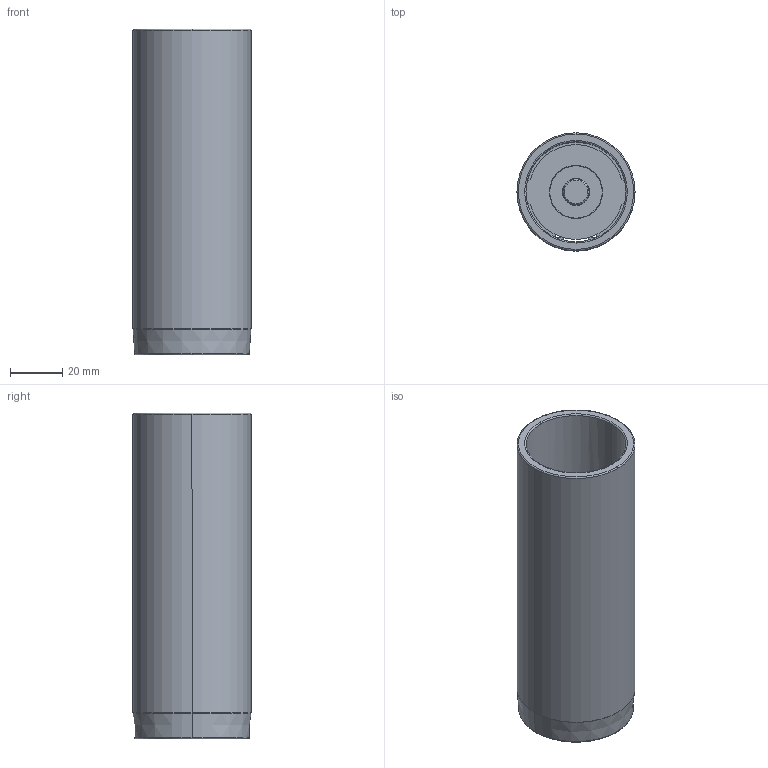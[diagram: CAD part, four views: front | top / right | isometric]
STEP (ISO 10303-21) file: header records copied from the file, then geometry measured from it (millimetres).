
FILE_DESCRIPTION((''),'2;1');
FILE_NAME('C12_038_125.stp','2009-01-28T11:30:20',(''),(''),'Mechanical Desktop 2009','Mechanical Desktop 2009',', , ');
FILE_SCHEMA(('CONFIG_CONTROL_DESIGN'));
Length unit declared in the file: millimetre
Products named in the file (2): Product; blmdl1
Assembly tree (1 placements, depth 2):
  Product
    blmdl1
Bounding box: 45.25 x 45.25 x 125 mm (x, y, z)
Volume: 60933 mm3; surface area: 39794.3 mm2
Topology: 5 solids, 5 shells, 79 faces, 200 edges, 134 vertices
Faces by surface type: cylinder 34, plane 29, torus 10, cone 6
Entity records: 2585 total; most frequent: DIRECTION 480, CARTESIAN_POINT 435, ORIENTED_EDGE 400, AXIS2_PLACEMENT_3D 203, EDGE_CURVE 200, VERTEX_POINT 134, CIRCLE 122, EDGE_LOOP 92
